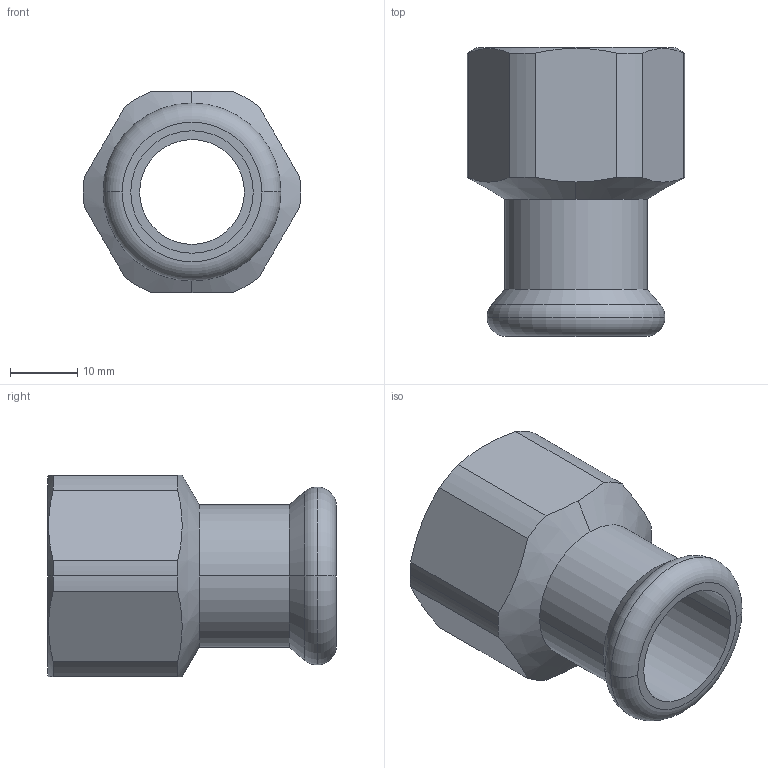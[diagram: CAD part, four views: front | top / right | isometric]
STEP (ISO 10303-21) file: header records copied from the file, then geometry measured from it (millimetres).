
FILE_DESCRIPTION(('CoCreate Modeling STEP Export'),'2;1');
FILE_NAME('C1402 18xRp3-4.stp','2014-11-06T16:58:05',(''),(''),'CoCreate Modeling STEP processor for AP214 (Solid Model)','CoCreate Modeling 17.00A 17-Jun-2010 (C) Parametric Technology GmbH','');
FILE_SCHEMA(('AUTOMOTIVE_DESIGN { 1 0 10303 214 1 1 1 1 }'));
Length unit declared in the file: millimetre
Products named in the file (2): C1402_18xRp¾
Assembly tree (1 placements, depth 2):
  C1402_18xRp¾
    C1402_18xRp¾
Bounding box: 32.36 x 43 x 30 mm (x, y, z)
Volume: 8989.4 mm3; surface area: 7612.2 mm2
Topology: 1 solids, 1 shells, 39 faces, 96 edges, 62 vertices
Faces by surface type: cylinder 18, plane 11, cone 6, torus 4
Entity records: 1640 total; most frequent: CARTESIAN_POINT 746, ORIENTED_EDGE 192, DIRECTION 158, EDGE_CURVE 96, AXIS2_PLACEMENT_3D 64, VERTEX_POINT 62, EDGE_LOOP 44, FACE_OUTER_BOUND 39
